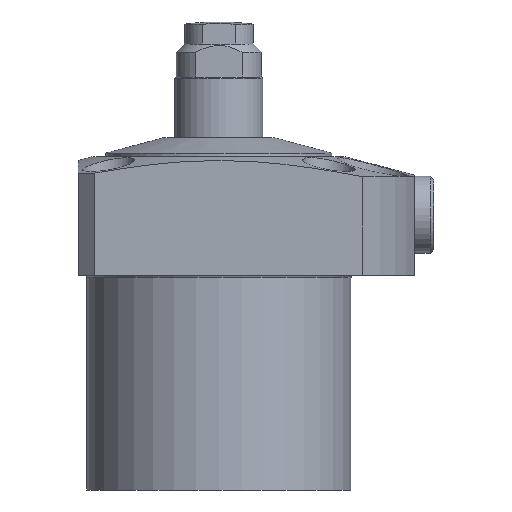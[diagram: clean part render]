
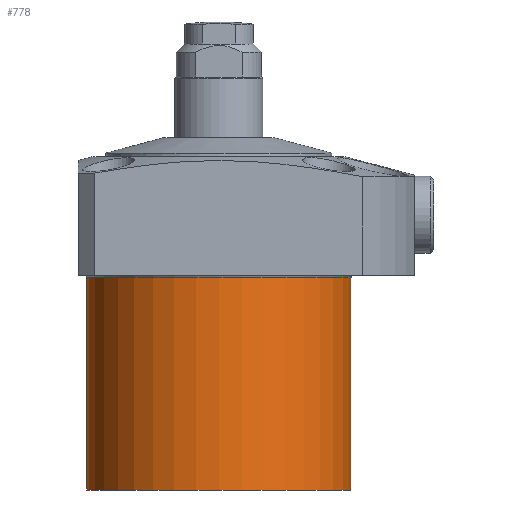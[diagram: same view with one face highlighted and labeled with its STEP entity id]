
A CAD part, front view. The second image highlights one B-rep face of the part: STEP entity #778.
In plain terms, the highlighted cylindrical face has radius 24 mm (diameter 48 mm), a partial arc.
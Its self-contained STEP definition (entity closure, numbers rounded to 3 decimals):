
#705=CYLINDRICAL_SURFACE('',#2552,24.);
#778=ADVANCED_FACE('',(#911),#705,.T.);
#911=FACE_OUTER_BOUND('',#1034,.T.);
#1034=EDGE_LOOP('',(#1621,#1622,#1623,#1624));
#1162=LINE('',#3627,#1287);
#1163=LINE('',#3629,#1288);
#1287=VECTOR('',#2906,1.);
#1288=VECTOR('',#2909,1.);
#1621=ORIENTED_EDGE('',*,*,#2166,.F.);
#1622=ORIENTED_EDGE('',*,*,#2222,.T.);
#1623=ORIENTED_EDGE('',*,*,#2168,.T.);
#1624=ORIENTED_EDGE('',*,*,#2163,.T.);
#1976=VERTEX_POINT('',#3619);
#1977=VERTEX_POINT('',#3621);
#1978=VERTEX_POINT('',#3625);
#1979=VERTEX_POINT('',#3626);
#2163=EDGE_CURVE('',#1977,#1976,#2360,.T.);
#2166=EDGE_CURVE('',#1979,#1976,#1162,.T.);
#2168=EDGE_CURVE('',#1978,#1977,#1163,.T.);
#2222=EDGE_CURVE('',#1979,#1978,#2384,.T.);
#2360=CIRCLE('',#2513,24.);
#2384=CIRCLE('',#2550,24.);
#2513=AXIS2_PLACEMENT_3D('',#3620,#2898,#2899);
#2550=AXIS2_PLACEMENT_3D('',#3853,#2992,#2993);
#2552=AXIS2_PLACEMENT_3D('',#3855,#2996,#2997);
#2898=DIRECTION('',(0.,0.,-1.));
#2899=DIRECTION('',(1.,0.,0.));
#2906=DIRECTION('',(0.,0.,1.));
#2909=DIRECTION('',(0.,0.,1.));
#2992=DIRECTION('',(0.,0.,1.));
#2993=DIRECTION('',(1.,0.,0.));
#2996=DIRECTION('',(0.,0.,1.));
#2997=DIRECTION('',(-1.,0.,0.));
#3619=CARTESIAN_POINT('',(-24.,0.,-0.4));
#3620=CARTESIAN_POINT('',(0.,0.,-0.4));
#3621=CARTESIAN_POINT('',(24.,0.,-0.4));
#3625=CARTESIAN_POINT('',(24.,0.,-39.));
#3626=CARTESIAN_POINT('',(-24.,0.,-39.));
#3627=CARTESIAN_POINT('',(-24.,0.,30.));
#3629=CARTESIAN_POINT('',(24.,0.,30.));
#3853=CARTESIAN_POINT('',(0.,0.,-39.));
#3855=CARTESIAN_POINT('',(0.,0.,30.));
